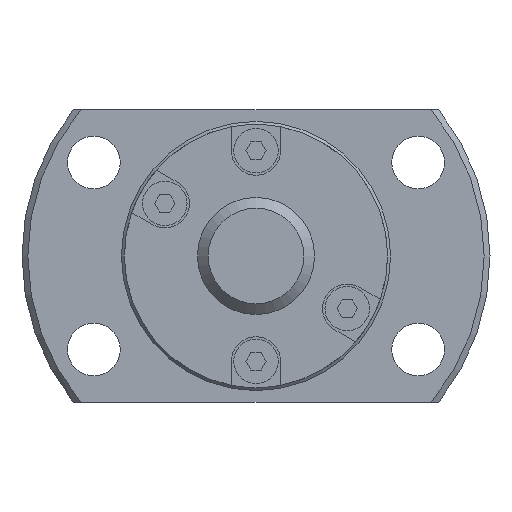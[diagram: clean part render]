
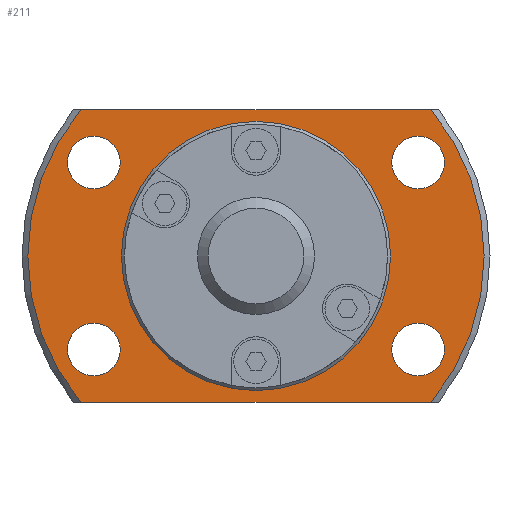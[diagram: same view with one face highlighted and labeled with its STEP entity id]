
A CAD part, left-side view. The second image highlights one B-rep face of the part: STEP entity #211.
In plain terms, the highlighted planar face has unit normal (-1, 0, 0).
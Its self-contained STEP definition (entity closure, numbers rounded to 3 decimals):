
#211 = ADVANCED_FACE( '', ( #414, #415, #416, #417, #418, #419 ), #420, .F. );
#414 = FACE_OUTER_BOUND( '', #747, .T. );
#415 = FACE_BOUND( '', #748, .T. );
#416 = FACE_BOUND( '', #749, .T. );
#417 = FACE_BOUND( '', #750, .T. );
#418 = FACE_BOUND( '', #751, .T. );
#419 = FACE_BOUND( '', #752, .T. );
#420 = PLANE( '', #753 );
#747 = EDGE_LOOP( '', ( #1283, #1284, #1285, #1286 ) );
#748 = EDGE_LOOP( '', ( #1287 ) );
#749 = EDGE_LOOP( '', ( #1288 ) );
#750 = EDGE_LOOP( '', ( #1289 ) );
#751 = EDGE_LOOP( '', ( #1290 ) );
#752 = EDGE_LOOP( '', ( #1291 ) );
#753 = AXIS2_PLACEMENT_3D( '', #1292, #1293, #1294 );
#1283 = ORIENTED_EDGE( '', *, *, #2014, .F. );
#1284 = ORIENTED_EDGE( '', *, *, #2147, .T. );
#1285 = ORIENTED_EDGE( '', *, *, #2152, .F. );
#1286 = ORIENTED_EDGE( '', *, *, #2008, .T. );
#1287 = ORIENTED_EDGE( '', *, *, #2138, .F. );
#1288 = ORIENTED_EDGE( '', *, *, #2140, .F. );
#1289 = ORIENTED_EDGE( '', *, *, #2142, .F. );
#1290 = ORIENTED_EDGE( '', *, *, #2144, .F. );
#1291 = ORIENTED_EDGE( '', *, *, #2153, .T. );
#1292 = CARTESIAN_POINT( '', ( 22., 11.25, 0. ) );
#1293 = DIRECTION( '', ( 1., 0., 0. ) );
#1294 = DIRECTION( '', ( 0., 0., -1. ) );
#2008 = EDGE_CURVE( '', #2323, #2321, #2324, .T. );
#2014 = EDGE_CURVE( '', #2334, #2321, #2335, .T. );
#2138 = EDGE_CURVE( '', #2566, #2566, #2567, .F. );
#2140 = EDGE_CURVE( '', #2570, #2570, #2571, .F. );
#2142 = EDGE_CURVE( '', #2574, #2574, #2575, .F. );
#2144 = EDGE_CURVE( '', #2578, #2578, #2579, .F. );
#2147 = EDGE_CURVE( '', #2334, #2583, #2585, .T. );
#2152 = EDGE_CURVE( '', #2323, #2583, #2593, .T. );
#2153 = EDGE_CURVE( '', #2594, #2594, #2595, .T. );
#2321 = VERTEX_POINT( '', #2846 );
#2323 = VERTEX_POINT( '', #2851 );
#2324 = LINE( '', #2852, #2853 );
#2334 = VERTEX_POINT( '', #2874 );
#2335 = CIRCLE( '', #2875, 19.5 );
#2566 = VERTEX_POINT( '', #3197 );
#2567 = CIRCLE( '', #3198, 2.25 );
#2570 = VERTEX_POINT( '', #3201 );
#2571 = CIRCLE( '', #3202, 2.25 );
#2574 = VERTEX_POINT( '', #3205 );
#2575 = CIRCLE( '', #3206, 2.25 );
#2578 = VERTEX_POINT( '', #3209 );
#2579 = CIRCLE( '', #3210, 2.25 );
#2583 = VERTEX_POINT( '', #3215 );
#2585 = LINE( '', #3220, #3221 );
#2593 = CIRCLE( '', #3237, 19.5 );
#2594 = VERTEX_POINT( '', #3238 );
#2595 = CIRCLE( '', #3239, 11.25 );
#2846 = CARTESIAN_POINT( '', ( 22., 14.967, 12.5 ) );
#2851 = CARTESIAN_POINT( '', ( 22., -14.967, 12.5 ) );
#2852 = CARTESIAN_POINT( '', ( 22., 11.25, 12.5 ) );
#2853 = VECTOR( '', #3613, 1000. );
#2874 = CARTESIAN_POINT( '', ( 22., 14.967, -12.5 ) );
#2875 = AXIS2_PLACEMENT_3D( '', #3616, #3617, #3618 );
#3197 = CARTESIAN_POINT( '', ( 22., -13.856, -10.25 ) );
#3198 = AXIS2_PLACEMENT_3D( '', #3809, #3810, #3811 );
#3201 = CARTESIAN_POINT( '', ( 22., -13.856, 5.75 ) );
#3202 = AXIS2_PLACEMENT_3D( '', #3815, #3816, #3817 );
#3205 = CARTESIAN_POINT( '', ( 22., 13.856, -10.25 ) );
#3206 = AXIS2_PLACEMENT_3D( '', #3821, #3822, #3823 );
#3209 = CARTESIAN_POINT( '', ( 22., 13.856, 5.75 ) );
#3210 = AXIS2_PLACEMENT_3D( '', #3827, #3828, #3829 );
#3215 = CARTESIAN_POINT( '', ( 22., -14.967, -12.5 ) );
#3220 = CARTESIAN_POINT( '', ( 22., 11.25, -12.5 ) );
#3221 = VECTOR( '', #3831, 1000. );
#3237 = AXIS2_PLACEMENT_3D( '', #3834, #3835, #3836 );
#3238 = CARTESIAN_POINT( '', ( 22., 0., -11.25 ) );
#3239 = AXIS2_PLACEMENT_3D( '', #3837, #3838, #3839 );
#3613 = DIRECTION( '', ( 0., 1., 0. ) );
#3616 = CARTESIAN_POINT( '', ( 22., 0., 0. ) );
#3617 = DIRECTION( '', ( 1., 0., 0. ) );
#3618 = DIRECTION( '', ( 0., 0., -1. ) );
#3809 = CARTESIAN_POINT( '', ( 22., -13.856, -8. ) );
#3810 = DIRECTION( '', ( 1., 0., 0. ) );
#3811 = DIRECTION( '', ( 0., 0., -1. ) );
#3815 = CARTESIAN_POINT( '', ( 22., -13.856, 8. ) );
#3816 = DIRECTION( '', ( 1., 0., 0. ) );
#3817 = DIRECTION( '', ( 0., 0., -1. ) );
#3821 = CARTESIAN_POINT( '', ( 22., 13.856, -8. ) );
#3822 = DIRECTION( '', ( 1., 0., 0. ) );
#3823 = DIRECTION( '', ( 0., 0., -1. ) );
#3827 = CARTESIAN_POINT( '', ( 22., 13.856, 8. ) );
#3828 = DIRECTION( '', ( 1., 0., 0. ) );
#3829 = DIRECTION( '', ( 0., 0., -1. ) );
#3831 = DIRECTION( '', ( 0., -1., 0. ) );
#3834 = CARTESIAN_POINT( '', ( 22., 0., 0. ) );
#3835 = DIRECTION( '', ( 1., 0., 0. ) );
#3836 = DIRECTION( '', ( 0., 0., -1. ) );
#3837 = CARTESIAN_POINT( '', ( 22., 0., 0. ) );
#3838 = DIRECTION( '', ( 1., 0., 0. ) );
#3839 = DIRECTION( '', ( 0., 0., -1. ) );
